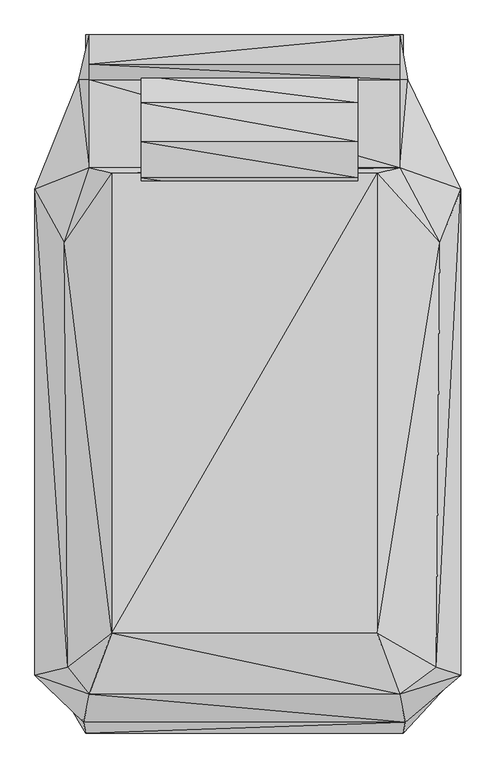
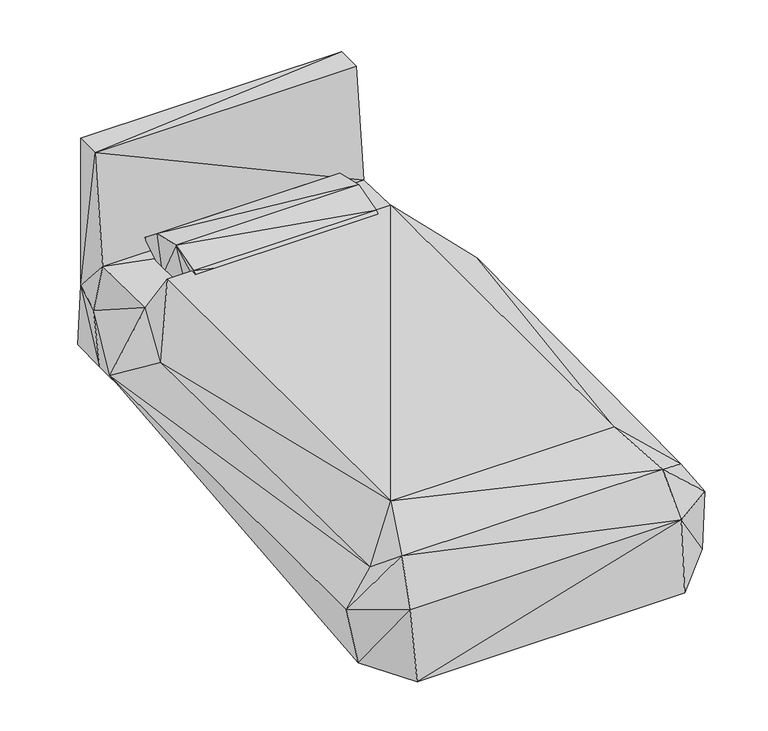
"""IFC4 building model written with IfcOpenShell, lengths in millimetres: geographic element geometry, Enscape AssetDefinition - Bed 012 100x208 cm (20x82 in) : Enscape AssetDefinition - Bed 012 100x208 cm (20x82 in)."""

from ifc_helpers import new_model, si_unit, origin, place, context, project, spatial, faceted_brep, source, transform, mapped, element, save


def geographic_element_5fd375c3(model_context):
    return source(origin(), model_context, "Body", "Brep", [
        faceted_brep([(523.4349966, -1190.2060509, 332.3949873), (-512.8620267, -1225.1529694, 58.7810017), (517.2939897, -1225.1529694, 58.7810017), (-519.002974, -1190.2060509, 332.3949873), (-627.959013, -1032.1520567, 58.7799996), (695.2369809, -1032.1520567, 58.7799996), (-500.4259944, -1099.9970436, 491.1299944), (504.8570037, -1099.9970436, 491.1299944), (703.1829953, -1037.6750231, 294.313997), (-677.0820022, -1037.6750231, 294.313997), (-570.6930161, -1011.8939877, 417.7269936), (-427.9429913, -901.1539817, 568.1369901), (432.3740005, -901.1539817, 568.1369901), (623.9879727, -1011.8939877, 417.7269936), (703.1829953, 537.9629731, 294.313997), (635.2530122, 363.8260067, 417.7269936), (432.3740005, 588.4640217, 568.2169795), (-581.9579959, 363.9500141, 417.7269936), (-427.9420078, 588.4640217, 568.2169795), (504.8570037, 607.4460149, 467.0909941), (653.1260014, 537.7820134, 58.7810017), (530.7809711, 892.1070099, 294.313997), (-500.4259944, 607.4460149, 467.0909941), (-500.4259944, 891.6839957, 461.0710144), (504.8570037, 891.6839957, 461.0710144), (-677.0820022, 537.9629731, 294.313997), (-534.833014, 892.1070099, 294.313997), (-500.4259944, 1037.5319719, 294.313997), (-500.1559854, 943.1859851, 893.8879967), (504.8570037, 1037.5319719, 294.313997), (504.5869946, 943.1849718, 893.8879967), (-500.1559854, 1037.5319719, 893.8879967), (504.5869946, 1037.5319719, 893.8879967), (517.2939897, 891.5730119, 58.7810017), (517.2939897, 1037.5319719, 58.7810017), (-512.8620267, 537.7820134, 58.7810017), (-512.8620267, 891.5740252, 58.7810017), (-512.8620267, 1037.5319719, 58.7810017)], [[[0, 1, 2]], [[1, 0, 3]], [[3, 4, 1]], [[4, 2, 1]], [[2, 4, 5]], [[5, 0, 2]], [[0, 6, 3]], [[6, 0, 7]], [[0, 5, 8]], [[8, 7, 0]], [[4, 3, 9]], [[6, 9, 3]], [[9, 6, 10]], [[10, 6, 11]], [[7, 11, 6]], [[11, 7, 12]], [[7, 8, 13]], [[12, 7, 13]], [[14, 13, 8]], [[5, 14, 8]], [[13, 14, 15]], [[15, 12, 13]], [[16, 11, 12]], [[12, 15, 16]], [[17, 11, 18]], [[11, 17, 10]], [[11, 16, 18]], [[19, 18, 16]], [[19, 16, 15]], [[14, 19, 15]], [[14, 5, 20]], [[20, 21, 14]], [[21, 19, 14]], [[18, 19, 22]], [[19, 23, 22]], [[23, 19, 24]], [[24, 19, 21]], [[17, 18, 22]], [[25, 10, 17]], [[17, 22, 25]], [[26, 22, 23]], [[25, 22, 26]], [[26, 23, 27]], [[28, 27, 23]], [[24, 28, 23]], [[29, 24, 21]], [[29, 30, 24]], [[28, 24, 30]], [[27, 28, 31]], [[32, 28, 30]], [[28, 32, 31]], [[30, 29, 32]], [[29, 31, 32]], [[29, 33, 34]], [[33, 29, 21]], [[34, 27, 29]], [[31, 29, 27]], [[33, 35, 36]], [[35, 33, 20]], [[21, 20, 33]], [[36, 34, 33]], [[34, 36, 37]], [[27, 34, 37]], [[27, 36, 26]], [[36, 27, 37]], [[35, 26, 36]], [[4, 25, 35]], [[26, 35, 25]], [[20, 4, 35]], [[4, 20, 5]], [[25, 4, 9]], [[10, 25, 9]]]),
        faceted_brep([(-332.7620029, 691.7759776, 610.17102), (369.5360124, 574.5850205, 577.4829984), (369.5360124, 691.7759776, 610.17102), (-332.7620029, 574.5850205, 577.4829984), (369.5360124, 466.587007, 489.6290004), (-332.7620029, 466.587007, 489.6290004), (369.5360124, 609.1549993, 441.475004), (-332.7620029, 609.1549993, 441.4759874), (-332.7620029, 817.5190091, 580.828011), (-332.7620029, 783.2909822, 438.0509853), (369.5360124, 783.2909822, 438.0509853), (369.5360124, 905.4369926, 510.9080076), (369.5360124, 817.5190091, 580.828011), (-332.7620029, 905.4369926, 510.9080076)], [[[0, 1, 2]], [[3, 4, 1]], [[1, 0, 3]], [[4, 2, 1]], [[5, 6, 4]], [[4, 3, 5]], [[6, 2, 4]], [[0, 5, 3]], [[6, 5, 7]], [[0, 7, 5]], [[0, 8, 9]], [[2, 8, 0]], [[0, 9, 7]], [[7, 10, 6]], [[10, 7, 9]], [[10, 2, 6]], [[9, 11, 10]], [[11, 12, 10]], [[10, 12, 2]], [[11, 9, 13]], [[9, 8, 13]], [[8, 2, 12]], [[12, 13, 8]], [[13, 12, 11]]]),
    ])


if __name__ == "__main__":
    model = new_model("IFC4")
    model_context = context("Model", 3, world=origin())
    ifc_project = project(units=[si_unit("LENGTHUNIT", "METRE", prefix="MILLI")], contexts=[model_context])
    site = spatial("IfcSite", under=ifc_project)
    building = spatial("IfcBuilding", under=site)
    placement = place(None, origin())
    geographic_element_shape = geographic_element_5fd375c3(model_context)
    element("IfcGeographicElement", 1, ObjectType="Enscape AssetDefinition - Bed 012 100x208 cm (20x82 in) : Enscape AssetDefinition - Bed 012 100x208 cm (20x82 in)", at=placement, inside=building, context=model_context, shape_type="MappedRepresentation", body=[
        mapped(geographic_element_shape, transform((0.0, 0.0, 0.0), x_axis=(1.0, 0.0, 0.0), y_axis=(0.0, 1.0, 0.0), z_axis=(0.0, 0.0, 1.0))),
    ])
    save(model, "model.ifc")
